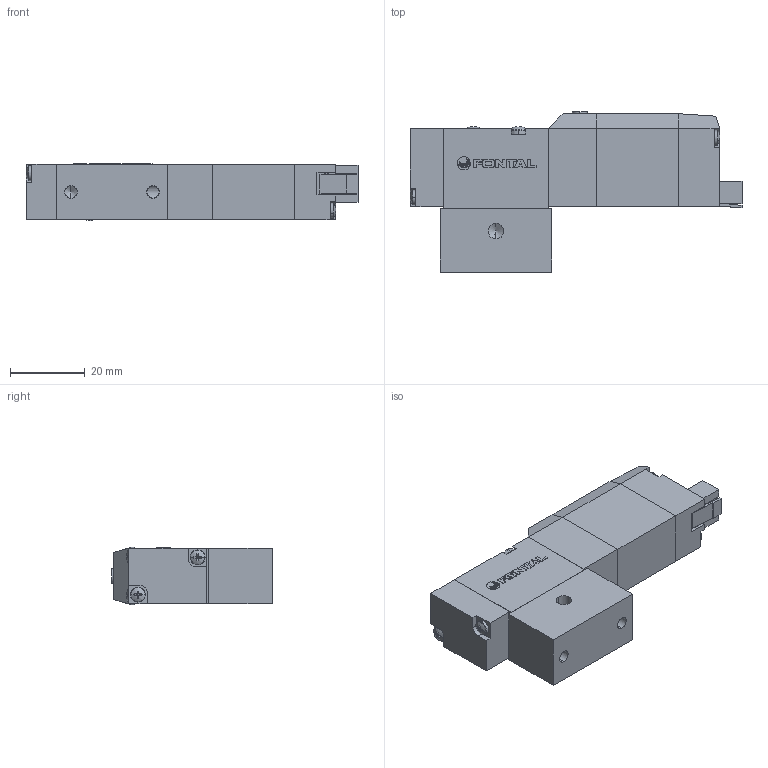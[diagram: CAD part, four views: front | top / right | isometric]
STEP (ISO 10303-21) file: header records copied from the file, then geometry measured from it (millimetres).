
FILE_DESCRIPTION (( 'STEP AP203' ), '1' );
FILE_NAME ('PCS245#-M5-#-SP-#.STEP', '2016-02-04T03:53:40', ( 'Sam Lin' ), ( '' ), 'SwSTEP 2.0', 'SolidWorks 2013', '' );
FILE_SCHEMA (( 'CONFIG_CONTROL_DESIGN' ));
Length unit declared in the file: metre
Products named in the file (12): PC5-10; PCS245#-M5-#-SP-#; PC5-3; PC5-5; PC5-1; PC-MARK; PC5-2; PC5-6; ISO 7045 - M2 x 10; ISO 7045 - M2.5 x 25; PC5-7; PC5-8
Assembly tree (15 placements, depth 2):
  PCS245#-M5-#-SP-#
    PC5-1
    PC5-2
    ISO 7045 - M2 x 10  x4
    PC5-3
    PC5-5
    PC-MARK
    PC5-6
    ISO 7045 - M2.5 x 25  x2
    PC5-7
    PC5-8
    PC5-10
Bounding box: 89.07 x 43 x 15.4 mm (x, y, z)
Volume: 35001.1 mm3; surface area: 15785.3 mm2
Topology: 22 solids, 22 shells, 530 faces, 1308 edges, 812 vertices
Faces by surface type: plane 314, cylinder 93, cone 79, bspline 44
Entity records: 12376 total; most frequent: CARTESIAN_POINT 2499, ORIENTED_EDGE 1768, DIRECTION 1720, EDGE_CURVE 884, LINE 590, VECTOR 590, VERTEX_POINT 572, AXIS2_PLACEMENT_3D 565
